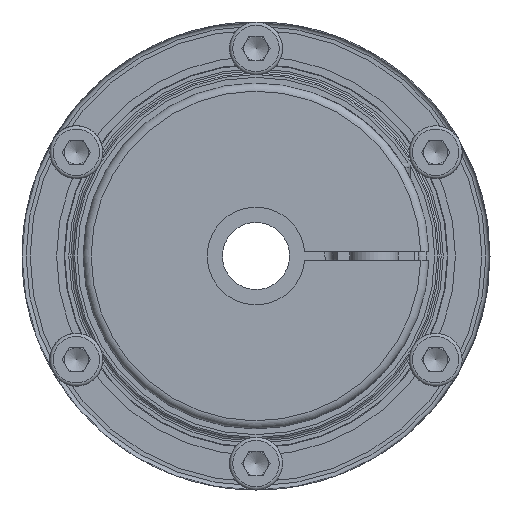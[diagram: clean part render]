
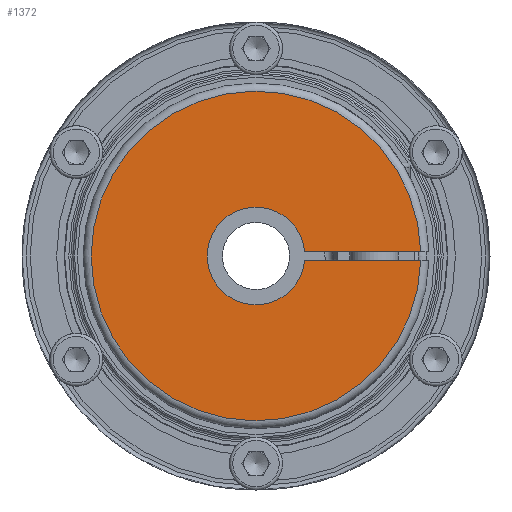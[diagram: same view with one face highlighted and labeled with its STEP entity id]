
A CAD part, left-side view. The second image highlights one B-rep face of the part: STEP entity #1372.
In plain terms, the highlighted planar face has unit normal (-1, 0, 0).
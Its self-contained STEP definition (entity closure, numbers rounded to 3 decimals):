
#1372 = ADVANCED_FACE( '', ( #2970 ), #2971, .T. );
#2970 = FACE_OUTER_BOUND( '', #4695, .T. );
#2971 = PLANE( '', #4696 );
#4695 = EDGE_LOOP( '', ( #8653, #8654, #8655, #8656 ) );
#4696 = AXIS2_PLACEMENT_3D( '', #8657, #8658, #8659 );
#8653 = ORIENTED_EDGE( '', *, *, #9410, .T. );
#8654 = ORIENTED_EDGE( '', *, *, #9921, .F. );
#8655 = ORIENTED_EDGE( '', *, *, #9542, .T. );
#8656 = ORIENTED_EDGE( '', *, *, #10657, .T. );
#8657 = CARTESIAN_POINT( '', ( -73.5, 0., 9. ) );
#8658 = DIRECTION( '', ( -1., 0., 0. ) );
#8659 = DIRECTION( '', ( 0., 0., 1. ) );
#9410 = EDGE_CURVE( '', #11275, #11273, #11276, .T. );
#9542 = EDGE_CURVE( '', #11480, #11492, #11494, .T. );
#9921 = EDGE_CURVE( '', #11480, #11273, #12096, .T. );
#10657 = EDGE_CURVE( '', #11492, #11275, #13051, .T. );
#11273 = VERTEX_POINT( '', #14141 );
#11275 = VERTEX_POINT( '', #14144 );
#11276 = LINE( '', #14145, #14146 );
#11480 = VERTEX_POINT( '', #14541 );
#11492 = VERTEX_POINT( '', #14571 );
#11494 = LINE( '', #14586, #14587 );
#12096 = CIRCLE( '', #15979, 12. );
#13051 = CIRCLE( '', #18387, 40.5 );
#14141 = CARTESIAN_POINT( '', ( -73.5, -11.958, -1. ) );
#14144 = CARTESIAN_POINT( '', ( -73.5, -40.488, -1. ) );
#14145 = CARTESIAN_POINT( '', ( -73.5, -42.488, -1. ) );
#14146 = VECTOR( '', #18963, 1000. );
#14541 = CARTESIAN_POINT( '', ( -73.5, -11.958, 1. ) );
#14571 = CARTESIAN_POINT( '', ( -73.5, -40.488, 1. ) );
#14586 = CARTESIAN_POINT( '', ( -73.5, -8.944, 1. ) );
#14587 = VECTOR( '', #19133, 1000. );
#15979 = AXIS2_PLACEMENT_3D( '', #19613, #19614, #19615 );
#18387 = AXIS2_PLACEMENT_3D( '', #20389, #20390, #20391 );
#18963 = DIRECTION( '', ( 0., 1., 0. ) );
#19133 = DIRECTION( '', ( 0., -1., 0. ) );
#19613 = CARTESIAN_POINT( '', ( -73.5, 0., 0. ) );
#19614 = DIRECTION( '', ( -1., 0., 0. ) );
#19615 = DIRECTION( '', ( 0., -1., 0. ) );
#20389 = CARTESIAN_POINT( '', ( -73.5, 0., 0. ) );
#20390 = DIRECTION( '', ( -1., 0., 0. ) );
#20391 = DIRECTION( '', ( 0., 0., 1. ) );
